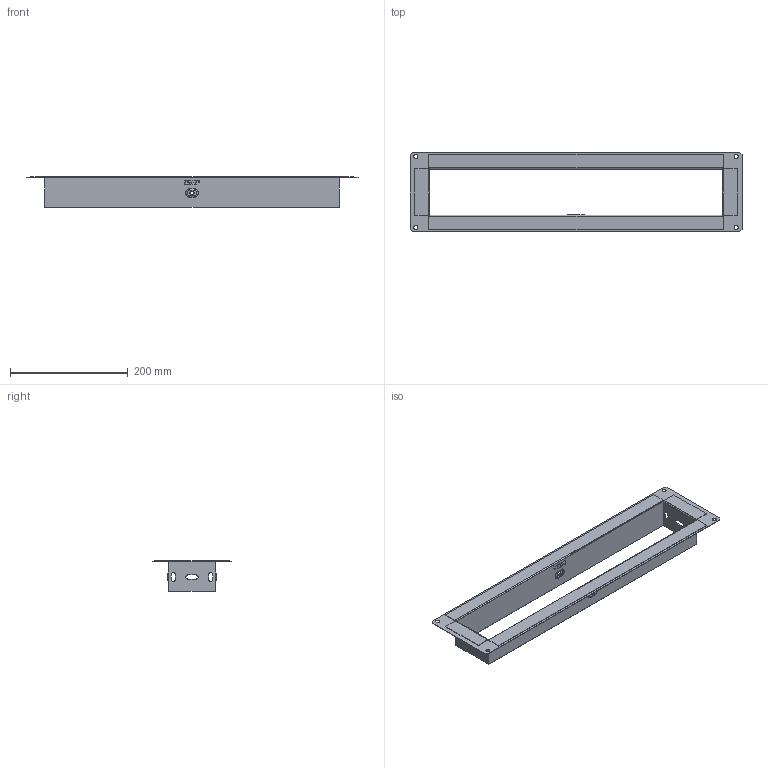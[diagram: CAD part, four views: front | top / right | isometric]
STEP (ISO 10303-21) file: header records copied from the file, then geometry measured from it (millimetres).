
FILE_DESCRIPTION (( 'STEP AP203' ), '1' );
FILE_NAME ('f80500_捘.STEP', '2020-01-23T12:31:30', ( '' ), ( '' ), 'SwSTEP 2.0', 'SolidWorks 2016', '' );
FILE_SCHEMA (( 'CONFIG_CONTROL_DESIGN' ));
Length unit declared in the file: millimetre
Products named in the file (9): f50500_2; f80300_3; f80500_捘; f80500_1
Assembly tree (5 placements, depth 2):
  f50500_2
  f80300_3
  f80300_3
  f80500_捘
    f80500_1
    f50500_2  x2
    f80300_3  x2
  f80500_1
Bounding box: 565 x 135 x 51.5 mm (x, y, z)
Volume: 97102.6 mm3; surface area: 247441.7 mm2
Topology: 5 solids, 5 shells, 314 faces, 816 edges, 528 vertices
Faces by surface type: plane 216, cylinder 64, bspline 18, torus 16
Entity records: 6402 total; most frequent: CARTESIAN_POINT 1382, ORIENTED_EDGE 876, DIRECTION 840, EDGE_CURVE 438, VECTOR 336, LINE 336, VERTEX_POINT 284, AXIS2_PLACEMENT_3D 252
